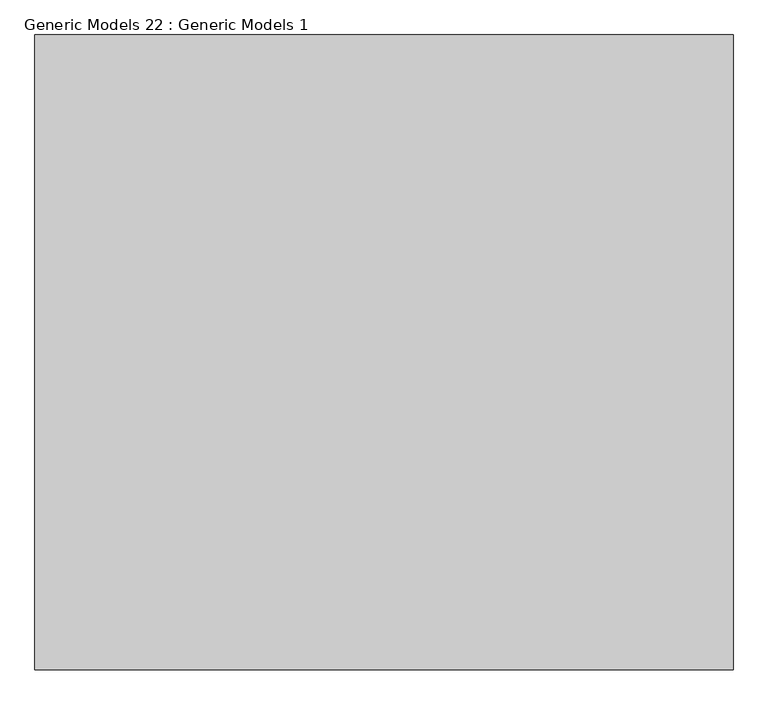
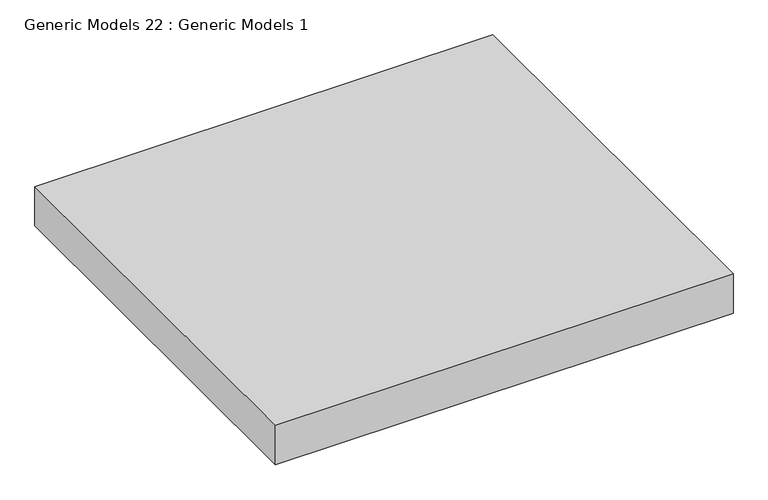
"""IFC4 building model written with IfcOpenShell, lengths in millimetres: proxy geometry, Generic Models 22 : Generic Models 1."""

from ifc_helpers import new_model, si_unit, origin, origin_with_axes, place, context, project, spatial, polyline, outline, extrude, source, transform, mapped, element, save


def generic_models_22_generic_models_1_4682f98c(model_context):
    return source(origin(), model_context, "Body", "SweptSolid", [
        extrude(outline(polyline([(2637.1851171, -9086.5772826), (2637.1851171, -8086.5772826), (3737.1851171, -8086.5772826), (3737.1851171, -9086.5772826), (2637.1851171, -9086.5772826)])), origin_with_axes(), (0.0, 0.0, 1.0), 100.0),
    ])


if __name__ == "__main__":
    model = new_model("IFC4")
    model_context = context("Model", 3, world=origin())
    ifc_project = project(units=[si_unit("LENGTHUNIT", "METRE", prefix="MILLI")], contexts=[model_context])
    site = spatial("IfcSite", under=ifc_project)
    building = spatial("IfcBuilding", under=site)
    placement = place(None, origin())
    generic_models_22_generic_models_1_shape = generic_models_22_generic_models_1_4682f98c(model_context)
    element("IfcBuildingElementProxy", 1, Name="Generic Models 22 : Generic Models 1", ObjectType="Generic Models 22 : Generic Models 1", at=placement, inside=building, context=model_context, shape_type="MappedRepresentation", body=[
        mapped(generic_models_22_generic_models_1_shape, transform((0.0, 0.0, 0.0), x_axis=(1.0, 0.0, 0.0), y_axis=(0.0, 1.0, 0.0), z_axis=(0.0, 0.0, 1.0))),
    ])
    save(model, "model.ifc")
